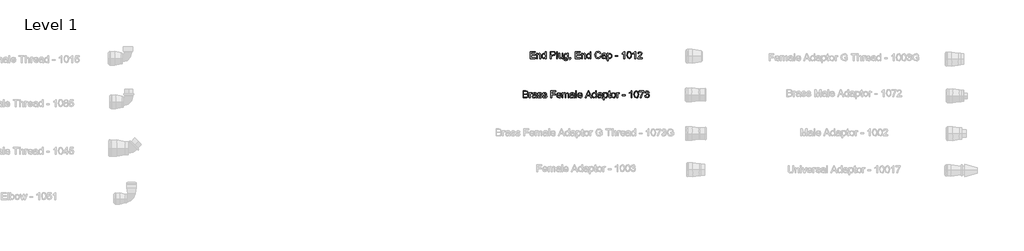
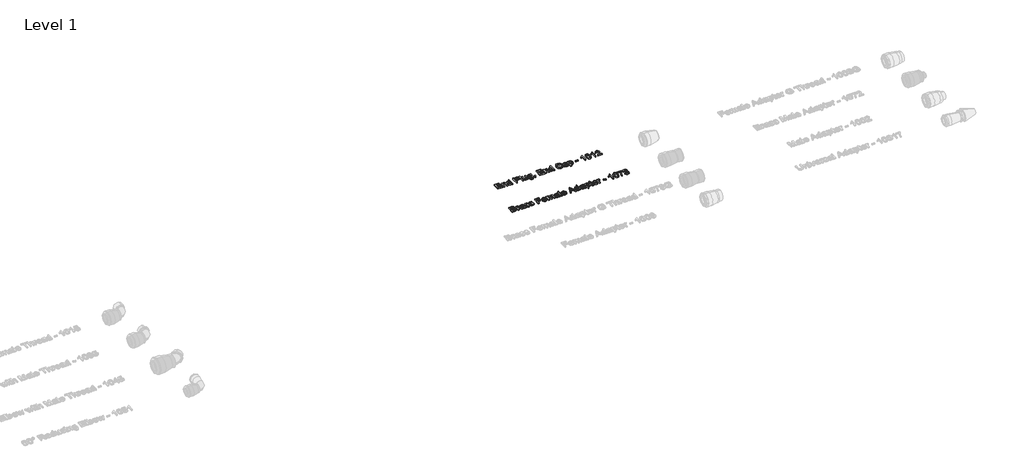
# One storey, part 8 of 13: 2 proxies.
"""IFC4 building model written with IfcOpenShell, lengths in millimetres."""

from ifc_helpers import new_model, si_unit, origin, origin_with_axes, place, context, project, spatial, polyline, outline, extrude, element, save

model = new_model("IFC4")

# Units and contexts
model_context = context("Model", 3, world=origin())
ifc_project = project(units=[si_unit("LENGTHUNIT", "METRE", prefix="MILLI")], contexts=[model_context])

# Site, building, storey
site = spatial("IfcSite", under=ifc_project)
building = spatial("IfcBuilding", under=site)
storey = spatial("IfcBuildingStorey", under=building, Name="Level 1", Elevation=0.0)

# Proxies
placement = place(None, origin())
element("IfcBuildingElementProxy", 1, Name="30 mm Arial", ObjectType="30 mm Arial", at=placement, inside=storey, context=model_context, shape_type="SweptSolid", body=[
    extrude(outline(polyline([(15636.2672516, 4924.8924653), (15636.2672516, 4954.4309268), (15657.4980209, 4954.4309268), (15657.4980209, 4950.7386191), (15639.9595593, 4950.7386191), (15639.9595593, 4941.9693883), (15656.574944, 4941.9693883), (15656.574944, 4938.2770806), (15639.9595593, 4938.2770806), (15639.9595593, 4928.584773), (15657.9595593, 4928.584773), (15657.9595593, 4924.8924653), (15636.2672516, 4924.8924653)])), origin_with_axes(), (0.0, 0.0, 1.0), 5.0),
    extrude(outline(polyline([(15663.0364824, 4924.8924653), (15663.0364824, 4946.584773), (15666.7287901, 4946.584773), (15666.7287901, 4943.5559268), (15673.4066747, 4947.0463114), (15676.8934536, 4946.3431864), (15679.2732613, 4944.4970326), (15680.3802324, 4941.7818883), (15680.574944, 4938.2121768), (15680.574944, 4924.8924653), (15676.8826363, 4924.8924653), (15676.8826363, 4937.7145806), (15676.4571555, 4940.9814076), (15674.9535497, 4942.708571), (15672.418694, 4943.3540037), (15668.4126843, 4941.9044845), (15666.7287901, 4936.4020806), (15666.7287901, 4924.8924653), (15663.0364824, 4924.8924653)])), origin_with_axes(), (0.0, 0.0, 1.0), 5.0),
    extrude(outline(polyline([(15699.0364824, 4924.8924653), (15699.0364824, 4928.3756383), (15693.2167709, 4924.4309268), (15688.6446555, 4925.8588114), (15685.4138863, 4929.8431864), (15684.2672516, 4935.7169845), (15685.323742, 4941.5943883), (15688.4896074, 4945.6400614), (15693.2023478, 4947.0463114), (15696.606194, 4946.0403018), (15699.0364824, 4943.4261191), (15699.0364824, 4954.4309268), (15702.7287901, 4954.4309268), (15702.7287901, 4924.8924653), (15699.0364824, 4924.8924653)]), holes=[polyline([(15687.9595593, 4935.7314076), (15689.6254247, 4930.0162633), (15693.5557132, 4928.1232345), (15697.4391266, 4929.9297249), (15699.0364824, 4935.4501576), (15697.4102805, 4941.442946), (15693.4042709, 4943.3540037), (15689.5172516, 4941.5186672), (15687.9595593, 4935.7314076)])]), origin_with_axes(), (0.0, 0.0, 1.0), 5.0),
    extrude(outline(polyline([(15720.2672516, 4924.8924653), (15720.2672516, 4954.4309268), (15731.214367, 4954.4309268), (15735.6278286, 4954.1496768), (15739.215569, 4952.7686672), (15741.5412901, 4949.912898), (15742.4210978, 4945.8852537), (15740.0448959, 4939.5030422), (15731.4667709, 4936.8924653), (15723.9595593, 4936.8924653), (15723.9595593, 4924.8924653), (15720.2672516, 4924.8924653)]), holes=[polyline([(15723.9595593, 4940.584773), (15731.683117, 4940.584773), (15737.120617, 4941.9405422), (15738.7287901, 4945.755446), (15737.7804728, 4948.8131383), (15735.2888863, 4950.4862153), (15731.5965786, 4950.7386191), (15723.9595593, 4950.7386191), (15723.9595593, 4940.584773)])]), origin_with_axes(), (0.0, 0.0, 1.0), 5.0),
    extrude(outline(polyline([(15747.0364824, 4924.8924653), (15747.0364824, 4954.4309268), (15750.7287901, 4954.4309268), (15750.7287901, 4924.8924653), (15747.0364824, 4924.8924653)])), origin_with_axes(), (0.0, 0.0, 1.0), 5.0),
    extrude(outline(polyline([(15770.1134055, 4924.8924653), (15770.1134055, 4928.6208306), (15763.449944, 4924.4309268), (15759.9775882, 4925.1665037), (15757.5833574, 4927.0126576), (15756.4835978, 4929.7314076), (15756.2672516, 4933.1640999), (15756.2672516, 4946.584773), (15759.9595593, 4946.584773), (15759.9595593, 4934.9020806), (15760.183117, 4931.1376576), (15761.6434536, 4928.927321), (15764.3946555, 4928.1232345), (15767.4775882, 4928.9453499), (15769.5148478, 4931.1845326), (15770.1134055, 4935.2987153), (15770.1134055, 4946.584773), (15773.8057132, 4946.584773), (15773.8057132, 4924.8924653), (15770.1134055, 4924.8924653)])), origin_with_axes(), (0.0, 0.0, 1.0), 5.0),
    extrude(outline(polyline([(15777.9595593, 4923.0463114), (15781.651867, 4922.584773), (15782.8489824, 4920.6376576), (15786.433117, 4919.8155422), (15790.2119632, 4920.7458306), (15792.0148478, 4923.3564076), (15792.2672516, 4927.661696), (15786.4980209, 4924.8924653), (15779.8525882, 4928.116023), (15777.4980209, 4935.8467922), (15778.5545113, 4941.569148), (15781.6122036, 4945.6184268), (15786.3177324, 4947.0463114), (15792.2672516, 4943.8155422), (15792.2672516, 4946.584773), (15795.9595593, 4946.584773), (15795.9595593, 4927.8564076), (15794.949944, 4920.6845326), (15791.7516266, 4917.349196), (15786.3610016, 4916.1232345), (15780.2203766, 4917.850398), (15777.9595593, 4923.0463114)]), holes=[polyline([(15781.1903286, 4936.099196), (15782.7660497, 4930.3840518), (15786.7215786, 4928.584773), (15790.6698959, 4930.3732345), (15792.2672516, 4935.991023), (15790.6230209, 4941.4970326), (15786.6638863, 4943.3540037), (15782.7876843, 4941.5258787), (15781.1903286, 4936.099196)])]), origin_with_axes(), (0.0, 0.0, 1.0), 5.0),
    extrude(outline(polyline([(15802.4210978, 4924.8924653), (15802.4210978, 4928.584773), (15806.1134055, 4928.584773), (15806.1134055, 4924.8924653), (15805.449944, 4921.1172249), (15803.3441747, 4918.8924653), (15802.4210978, 4920.2770806), (15803.776867, 4921.8708306), (15804.2600401, 4924.8924653), (15802.4210978, 4924.8924653)])), origin_with_axes(), (0.0, 0.0, 1.0), 5.0),
    extrude(outline(polyline([(15825.0364824, 4924.8924653), (15825.0364824, 4954.4309268), (15846.2672516, 4954.4309268), (15846.2672516, 4950.7386191), (15828.7287901, 4950.7386191), (15828.7287901, 4941.9693883), (15845.3441747, 4941.9693883), (15845.3441747, 4938.2770806), (15828.7287901, 4938.2770806), (15828.7287901, 4928.584773), (15846.7287901, 4928.584773), (15846.7287901, 4924.8924653), (15825.0364824, 4924.8924653)])), origin_with_axes(), (0.0, 0.0, 1.0), 5.0),
    extrude(outline(polyline([(15851.8057132, 4924.8924653), (15851.8057132, 4946.584773), (15855.4980209, 4946.584773), (15855.4980209, 4943.5559268), (15862.1759055, 4947.0463114), (15865.6626843, 4946.3431864), (15868.042492, 4944.4970326), (15869.1494632, 4941.7818883), (15869.3441747, 4938.2121768), (15869.3441747, 4924.8924653), (15865.651867, 4924.8924653), (15865.651867, 4937.7145806), (15865.2263863, 4940.9814076), (15863.7227805, 4942.708571), (15861.1879247, 4943.3540037), (15857.1819151, 4941.9044845), (15855.4980209, 4936.4020806), (15855.4980209, 4924.8924653), (15851.8057132, 4924.8924653)])), origin_with_axes(), (0.0, 0.0, 1.0), 5.0),
    extrude(outline(polyline([(15887.8057132, 4924.8924653), (15887.8057132, 4928.3756383), (15881.9860016, 4924.4309268), (15877.4138863, 4925.8588114), (15874.183117, 4929.8431864), (15873.0364824, 4935.7169845), (15874.0929728, 4941.5943883), (15877.2588382, 4945.6400614), (15881.9715786, 4947.0463114), (15885.3754247, 4946.0403018), (15887.8057132, 4943.4261191), (15887.8057132, 4954.4309268), (15891.4980209, 4954.4309268), (15891.4980209, 4924.8924653), (15887.8057132, 4924.8924653)]), holes=[polyline([(15876.7287901, 4935.7314076), (15878.3946555, 4930.0162633), (15882.324944, 4928.1232345), (15886.2083574, 4929.9297249), (15887.8057132, 4935.4501576), (15886.1795113, 4941.442946), (15882.1735016, 4943.3540037), (15878.2864824, 4941.5186672), (15876.7287901, 4935.7314076)])]), origin_with_axes(), (0.0, 0.0, 1.0), 5.0),
    extrude(outline(polyline([(15929.8057132, 4935.3924653), (15933.4980209, 4934.4405422), (15929.120617, 4926.9946287), (15921.3898478, 4924.4309268), (15913.7059536, 4926.3708306), (15909.198742, 4931.9886191), (15907.651867, 4939.8852537), (15909.4006651, 4947.911696), (15914.3730209, 4953.114821), (15921.4691747, 4954.8924653), (15928.8646074, 4952.5919845), (15933.0364824, 4946.116023), (15929.3441747, 4945.2362153), (15926.3153286, 4949.7758787), (15921.324944, 4951.2001576), (15915.5485016, 4949.6208306), (15912.2852805, 4945.380446), (15911.3441747, 4939.8924653), (15912.4583574, 4933.5318883), (15915.9271074, 4929.4681864), (15921.0220593, 4928.1232345), (15926.6722997, 4929.9549653), (15929.8057132, 4935.3924653)])), origin_with_axes(), (0.0, 0.0, 1.0), 5.0),
    extrude(outline(polyline([(15951.9595593, 4927.661696), (15948.3790305, 4925.1592922), (15944.4235016, 4924.4309268), (15939.0617228, 4926.1833306), (15937.1903286, 4930.661696), (15937.8970593, 4933.5823691), (15939.7540305, 4935.7025614), (15942.339367, 4936.9140999), (15945.5340786, 4937.4693883), (15951.9379247, 4938.7386191), (15950.9427324, 4942.286696), (15946.8610016, 4943.3540037), (15943.1254247, 4942.6436672), (15941.3441747, 4940.1232345), (15937.651867, 4940.584773), (15939.2492228, 4944.1905422), (15942.465569, 4946.303523), (15947.3369632, 4947.0463114), (15951.8117228, 4946.3900614), (15954.339367, 4944.7422249), (15955.4715786, 4942.2362153), (15955.651867, 4939.005446), (15955.651867, 4934.411696), (15955.839367, 4927.9970326), (15956.574944, 4924.8924653), (15952.8826363, 4924.8924653), (15951.9595593, 4927.661696)]), holes=[polyline([(15951.948742, 4934.5234749), (15946.0028286, 4933.9140999), (15942.8261459, 4933.3155422), (15941.387444, 4932.3419845), (15941.9823959, 4928.9237153), (15945.2095593, 4928.1232345), (15948.9451363, 4929.006648), (15951.3537901, 4931.1448691), (15951.948742, 4934.5234749)])]), origin_with_axes(), (0.0, 0.0, 1.0), 5.0),
    extrude(outline(polyline([(15960.7287901, 4916.584773), (15960.7287901, 4946.584773), (15964.4210978, 4946.584773), (15964.4210978, 4942.9645806), (15966.9739824, 4946.0258787), (15970.4210978, 4947.0463114), (15975.1013863, 4945.6184268), (15978.1590786, 4941.5943883), (15979.1903286, 4935.9044845), (15978.0256651, 4929.9225133), (15974.6434536, 4925.8479941), (15969.9739824, 4924.4309268), (15966.761242, 4925.3792441), (15964.4210978, 4927.7770806), (15964.4210978, 4916.584773), (15960.7287901, 4916.584773)]), holes=[polyline([(15964.4210978, 4935.5655422), (15966.0184536, 4929.9405422), (15969.8946555, 4928.1232345), (15973.8501843, 4930.005446), (15975.4980209, 4935.8395806), (15973.8898478, 4941.4790037), (15970.0460978, 4943.3540037), (15966.1266266, 4941.3600133), (15964.4210978, 4935.5655422)])]), origin_with_axes(), (0.0, 0.0, 1.0), 5.0),
    extrude(outline(polyline([(15993.0364824, 4933.661696), (15993.0364824, 4937.3540037), (16004.574944, 4937.3540037), (16004.574944, 4933.661696), (15993.0364824, 4933.661696)])), origin_with_axes(), (0.0, 0.0, 1.0), 5.0),
    extrude(outline(polyline([(16033.1903286, 4924.8924653), (16029.4980209, 4924.8924653), (16029.4980209, 4947.911696), (16026.0004247, 4945.4201095), (16022.1134055, 4943.5559268), (16022.1134055, 4947.0463114), (16027.5256651, 4950.5006383), (16030.8105209, 4954.4309268), (16033.1903286, 4954.4309268), (16033.1903286, 4924.8924653)])), origin_with_axes(), (0.0, 0.0, 1.0), 5.0),
    extrude(outline(polyline([(16041.9595593, 4939.4237153), (16043.0448959, 4947.9225133), (16046.2684536, 4952.8227537), (16051.651867, 4954.4309268), (16055.964367, 4953.4790037), (16058.9427324, 4950.7350133), (16060.6735016, 4946.364821), (16061.3441747, 4939.4237153), (16060.2696555, 4930.9609749), (16057.0569151, 4926.0499172), (16051.651867, 4924.4309268), (16044.901867, 4927.2434268), (16041.9595593, 4939.4237153)]), holes=[polyline([(16045.651867, 4939.4309268), (16047.3826363, 4930.2614556), (16051.651867, 4928.1232345), (16055.9210978, 4930.2686672), (16057.651867, 4939.4309268), (16055.9787901, 4948.4958306), (16051.6085978, 4950.7386191), (16047.4403286, 4948.7626576), (16045.651867, 4939.4309268)])]), origin_with_axes(), (0.0, 0.0, 1.0), 5.0),
    extrude(outline(polyline([(16078.4210978, 4924.8924653), (16074.7287901, 4924.8924653), (16074.7287901, 4947.911696), (16071.231194, 4945.4201095), (16067.3441747, 4943.5559268), (16067.3441747, 4947.0463114), (16072.7564343, 4950.5006383), (16076.0412901, 4954.4309268), (16078.4210978, 4954.4309268), (16078.4210978, 4924.8924653)])), origin_with_axes(), (0.0, 0.0, 1.0), 5.0),
    extrude(outline(polyline([(16106.1134055, 4928.584773), (16106.1134055, 4924.8924653), (16086.7287901, 4924.8924653), (16087.1254247, 4927.4381383), (16089.3682132, 4931.3576095), (16093.9908093, 4935.6376576), (16100.3658093, 4941.7890999), (16101.9595593, 4945.9717922), (16100.4559536, 4949.3576095), (16096.5292709, 4950.7386191), (16092.4367228, 4949.3900614), (16090.8826363, 4945.661696), (16087.1903286, 4946.1232345), (16090.0208574, 4952.303523), (16096.6085978, 4954.4309268), (16103.2179728, 4952.0655422), (16105.651867, 4946.1953499), (16104.995617, 4942.694148), (16102.8141266, 4939.0739556), (16097.5244632, 4934.0150614), (16093.276867, 4930.4633787), (16091.6110016, 4928.584773), (16106.1134055, 4928.584773)])), origin_with_axes(), (0.0, 0.0, 1.0), 5.0),
])
element("IfcBuildingElementProxy", 2, Name="30 mm Arial", ObjectType="30 mm Arial", at=placement, inside=storey, context=model_context, shape_type="SweptSolid", body=[
    extrude(outline(polyline([(15606.2672516, 4759.8924653), (15606.2672516, 4789.4309268), (15617.5388863, 4789.4309268), (15623.059319, 4788.5619364), (15626.3189343, 4785.8900614), (15627.4980209, 4782.1112153), (15626.5064343, 4778.6604941), (15623.5100401, 4776.0463114), (15627.1482613, 4773.2915037), (15628.4210978, 4768.6977537), (15627.5521074, 4764.7278018), (15625.3994632, 4761.9008787), (15622.1867228, 4760.4008787), (15617.4523478, 4759.8924653), (15606.2672516, 4759.8924653)]), holes=[polyline([(15609.9595593, 4763.584773), (15617.5316747, 4763.584773), (15620.2720593, 4763.7290037), (15622.590569, 4764.5330903), (15624.1266266, 4766.1737153), (15624.7287901, 4768.661696), (15624.0220593, 4771.5318883), (15621.7323959, 4773.2446287), (15617.1710978, 4773.7386191), (15609.9595593, 4773.7386191), (15609.9595593, 4763.584773)]), polyline([(15609.9595593, 4777.4309268), (15616.7023478, 4777.4309268), (15620.6398478, 4777.7482345), (15623.0088382, 4779.114821), (15623.8057132, 4781.5198691), (15623.0629247, 4783.928523), (15620.9355209, 4785.3528018), (15616.1903286, 4785.7386191), (15609.9595593, 4785.7386191), (15609.9595593, 4777.4309268)])]), origin_with_axes(), (0.0, 0.0, 1.0), 5.0),
    extrude(outline(polyline([(15633.0364824, 4759.8924653), (15633.0364824, 4781.584773), (15636.2672516, 4781.584773), (15636.2672516, 4778.3756383), (15638.5605209, 4781.3323691), (15640.8682132, 4782.0463114), (15644.574944, 4780.9068883), (15643.3417709, 4777.5967922), (15640.745617, 4778.3540037), (15638.6578766, 4777.6256383), (15637.3273478, 4775.6064076), (15636.7287901, 4771.2939076), (15636.7287901, 4759.8924653), (15633.0364824, 4759.8924653)])), origin_with_axes(), (0.0, 0.0, 1.0), 5.0),
    extrude(outline(polyline([(15660.7287901, 4762.661696), (15657.1482613, 4760.1592922), (15653.1927324, 4759.4309268), (15647.8309536, 4761.1833306), (15645.9595593, 4765.661696), (15646.6662901, 4768.5823691), (15648.5232613, 4770.7025614), (15651.1085978, 4771.9140999), (15654.3033093, 4772.4693883), (15660.7071555, 4773.7386191), (15659.7119632, 4777.286696), (15655.6302324, 4778.3540037), (15651.8946555, 4777.6436672), (15650.1134055, 4775.1232345), (15646.4210978, 4775.584773), (15648.0184536, 4779.1905422), (15651.2347997, 4781.303523), (15656.106194, 4782.0463114), (15660.5809536, 4781.3900614), (15663.1085978, 4779.7422249), (15664.2408093, 4777.2362153), (15664.4210978, 4774.005446), (15664.4210978, 4769.411696), (15664.6085978, 4762.9970326), (15665.3441747, 4759.8924653), (15661.651867, 4759.8924653), (15660.7287901, 4762.661696)]), holes=[polyline([(15660.7179728, 4769.5234749), (15654.7720593, 4768.9140999), (15651.5953766, 4768.3155422), (15650.1566747, 4767.3419845), (15650.7516266, 4763.9237153), (15653.9787901, 4763.1232345), (15657.714367, 4764.006648), (15660.1230209, 4766.1448691), (15660.7179728, 4769.5234749)])]), origin_with_axes(), (0.0, 0.0, 1.0), 5.0),
    extrude(outline(polyline([(15668.1134055, 4766.3540037), (15671.8057132, 4766.8155422), (15673.5148478, 4764.0751576), (15677.4307132, 4763.1232345), (15681.1951363, 4763.9958306), (15682.4210978, 4766.0439076), (15681.1879247, 4767.7025614), (15677.387444, 4768.755446), (15671.8273478, 4770.5619364), (15669.4006651, 4772.6713114), (15668.574944, 4775.6496768), (15669.2384055, 4778.4008787), (15671.0485016, 4780.5030422), (15673.3958574, 4781.5955903), (15676.5725401, 4782.0463114), (15681.0653286, 4781.3215518), (15683.9210978, 4779.3600133), (15685.1903286, 4776.0463114), (15681.4980209, 4775.584773), (15680.1097997, 4777.6220326), (15676.8610016, 4778.3540037), (15673.3273478, 4777.6544845), (15672.2672516, 4776.0246768), (15674.0845593, 4774.1352537), (15677.2648478, 4773.349196), (15682.684319, 4771.6112153), (15685.2011459, 4769.6424653), (15686.1134055, 4766.4333306), (15685.042492, 4762.8996768), (15681.9523478, 4760.3359749), (15677.3802324, 4759.4309268), (15670.9403286, 4761.1761191), (15668.1134055, 4766.3540037)])), origin_with_axes(), (0.0, 0.0, 1.0), 5.0),
    extrude(outline(polyline([(15688.8826363, 4766.3540037), (15692.574944, 4766.8155422), (15694.2840786, 4764.0751576), (15698.199944, 4763.1232345), (15701.964367, 4763.9958306), (15703.1903286, 4766.0439076), (15701.9571555, 4767.7025614), (15698.1566747, 4768.755446), (15692.5965786, 4770.5619364), (15690.1698959, 4772.6713114), (15689.3441747, 4775.6496768), (15690.0076363, 4778.4008787), (15691.8177324, 4780.5030422), (15694.1650882, 4781.5955903), (15697.3417709, 4782.0463114), (15701.8345593, 4781.3215518), (15704.6903286, 4779.3600133), (15705.9595593, 4776.0463114), (15702.2672516, 4775.584773), (15700.8790305, 4777.6220326), (15697.6302324, 4778.3540037), (15694.0965786, 4777.6544845), (15693.0364824, 4776.0246768), (15694.8537901, 4774.1352537), (15698.0340786, 4773.349196), (15703.4535497, 4771.6112153), (15705.9703766, 4769.6424653), (15706.8826363, 4766.4333306), (15705.8117228, 4762.8996768), (15702.7215786, 4760.3359749), (15698.1494632, 4759.4309268), (15691.7095593, 4761.1761191), (15688.8826363, 4766.3540037)])), origin_with_axes(), (0.0, 0.0, 1.0), 5.0),
    extrude(outline(polyline([(15723.0364824, 4759.8924653), (15723.0364824, 4789.4309268), (15742.8826363, 4789.4309268), (15742.8826363, 4785.7386191), (15726.7287901, 4785.7386191), (15726.7287901, 4776.9693883), (15740.574944, 4776.9693883), (15740.574944, 4773.2770806), (15726.7287901, 4773.2770806), (15726.7287901, 4759.8924653), (15723.0364824, 4759.8924653)])), origin_with_axes(), (0.0, 0.0, 1.0), 5.0),
    extrude(outline(polyline([(15762.6855209, 4766.3540037), (15766.3057132, 4765.8924653), (15762.9198959, 4761.1256383), (15756.6134055, 4759.4309268), (15748.9475401, 4762.3552056), (15746.1134055, 4770.5583306), (15748.9763863, 4779.0318883), (15756.4042709, 4782.0463114), (15763.6194151, 4779.0390999), (15766.4210978, 4770.5799653), (15749.8057132, 4769.584773), (15751.9295113, 4764.7890999), (15756.6855209, 4763.1232345), (15760.3057132, 4763.8948691), (15762.6855209, 4766.3540037)]), holes=[polyline([(15749.8057132, 4773.2770806), (15762.7287901, 4773.2770806), (15761.2504247, 4776.6232345), (15756.3898478, 4778.3540037), (15751.8429728, 4776.9729941), (15749.8057132, 4773.2770806)])]), origin_with_axes(), (0.0, 0.0, 1.0), 5.0),
    extrude(outline(polyline([(15770.1134055, 4759.8924653), (15770.1134055, 4781.584773), (15773.8057132, 4781.584773), (15773.8057132, 4778.0150614), (15776.3441747, 4780.9393403), (15779.9571555, 4782.0463114), (15783.6566747, 4780.9177056), (15785.6903286, 4777.755446), (15792.2095593, 4782.0463114), (15797.0376843, 4780.2614556), (15798.7287901, 4774.7626576), (15798.7287901, 4759.8924653), (15795.0364824, 4759.8924653), (15795.0364824, 4773.1761191), (15794.6939343, 4776.2590518), (15793.4535497, 4777.7770806), (15791.3441747, 4778.3540037), (15787.7131651, 4776.8756383), (15786.2672516, 4772.1376576), (15786.2672516, 4759.8924653), (15782.574944, 4759.8924653), (15782.574944, 4773.5871768), (15781.7203766, 4777.1640999), (15778.918694, 4778.3540037), (15776.1855209, 4777.5607345), (15774.3682132, 4775.2386191), (15773.8057132, 4770.8323691), (15773.8057132, 4759.8924653), (15770.1134055, 4759.8924653)])), origin_with_axes(), (0.0, 0.0, 1.0), 5.0),
    extrude(outline(polyline([(15818.1134055, 4762.661696), (15814.5328766, 4760.1592922), (15810.5773478, 4759.4309268), (15805.215569, 4761.1833306), (15803.3441747, 4765.661696), (15804.0509055, 4768.5823691), (15805.9078766, 4770.7025614), (15808.4932132, 4771.9140999), (15811.6879247, 4772.4693883), (15818.0917709, 4773.7386191), (15817.0965786, 4777.286696), (15813.0148478, 4778.3540037), (15809.2792709, 4777.6436672), (15807.4980209, 4775.1232345), (15803.8057132, 4775.584773), (15805.403069, 4779.1905422), (15808.6194151, 4781.303523), (15813.4908093, 4782.0463114), (15817.965569, 4781.3900614), (15820.4932132, 4779.7422249), (15821.6254247, 4777.2362153), (15821.8057132, 4774.005446), (15821.8057132, 4769.411696), (15821.9932132, 4762.9970326), (15822.7287901, 4759.8924653), (15819.0364824, 4759.8924653), (15818.1134055, 4762.661696)]), holes=[polyline([(15818.1025882, 4769.5234749), (15812.1566747, 4768.9140999), (15808.979992, 4768.3155422), (15807.5412901, 4767.3419845), (15808.136242, 4763.9237153), (15811.3634055, 4763.1232345), (15815.0989824, 4764.006648), (15817.5076363, 4766.1448691), (15818.1025882, 4769.5234749)])]), origin_with_axes(), (0.0, 0.0, 1.0), 5.0),
    extrude(outline(polyline([(15826.8826363, 4759.8924653), (15826.8826363, 4789.4309268), (15830.574944, 4789.4309268), (15830.574944, 4759.8924653), (15826.8826363, 4759.8924653)])), origin_with_axes(), (0.0, 0.0, 1.0), 5.0),
    extrude(outline(polyline([(15851.3009055, 4766.3540037), (15854.9210978, 4765.8924653), (15851.5352805, 4761.1256383), (15845.2287901, 4759.4309268), (15837.5629247, 4762.3552056), (15834.7287901, 4770.5583306), (15837.5917709, 4779.0318883), (15845.0196555, 4782.0463114), (15852.2347997, 4779.0390999), (15855.0364824, 4770.5799653), (15838.4210978, 4769.584773), (15840.5448959, 4764.7890999), (15845.3009055, 4763.1232345), (15848.9210978, 4763.8948691), (15851.3009055, 4766.3540037)]), holes=[polyline([(15838.4210978, 4773.2770806), (15851.3441747, 4773.2770806), (15849.8658093, 4776.6232345), (15845.0052324, 4778.3540037), (15840.4583574, 4776.9729941), (15838.4210978, 4773.2770806)])]), origin_with_axes(), (0.0, 0.0, 1.0), 5.0),
    extrude(outline(polyline([(15867.2888863, 4759.8924653), (15879.0797516, 4789.4309268), (15882.2239824, 4789.4309268), (15894.0148478, 4759.8924653), (15890.1134055, 4759.8924653), (15886.731194, 4769.1232345), (15874.5653286, 4769.1232345), (15871.1903286, 4759.8924653), (15867.2888863, 4759.8924653)]), holes=[polyline([(15875.9210978, 4772.8155422), (15885.3826363, 4772.8155422), (15882.7215786, 4780.0775614), (15880.651867, 4785.7386191), (15878.8129247, 4780.7121768), (15875.9210978, 4772.8155422)])]), origin_with_axes(), (0.0, 0.0, 1.0), 5.0),
    extrude(outline(polyline([(15910.8826363, 4759.8924653), (15910.8826363, 4763.3756383), (15905.0629247, 4759.4309268), (15900.4908093, 4760.8588114), (15897.2600401, 4764.8431864), (15896.1134055, 4770.7169845), (15897.1698959, 4776.5943883), (15900.3357613, 4780.6400614), (15905.0485016, 4782.0463114), (15908.4523478, 4781.0403018), (15910.8826363, 4778.4261191), (15910.8826363, 4789.4309268), (15914.574944, 4789.4309268), (15914.574944, 4759.8924653), (15910.8826363, 4759.8924653)]), holes=[polyline([(15899.8057132, 4770.7314076), (15901.4715786, 4765.0162633), (15905.401867, 4763.1232345), (15909.2852805, 4764.9297249), (15910.8826363, 4770.4501576), (15909.2564343, 4776.442946), (15905.2504247, 4778.3540037), (15901.3634055, 4776.5186672), (15899.8057132, 4770.7314076)])]), origin_with_axes(), (0.0, 0.0, 1.0), 5.0),
    extrude(outline(polyline([(15933.9595593, 4762.661696), (15930.3790305, 4760.1592922), (15926.4235016, 4759.4309268), (15921.0617228, 4761.1833306), (15919.1903286, 4765.661696), (15919.8970593, 4768.5823691), (15921.7540305, 4770.7025614), (15924.339367, 4771.9140999), (15927.5340786, 4772.4693883), (15933.9379247, 4773.7386191), (15932.9427324, 4777.286696), (15928.8610016, 4778.3540037), (15925.1254247, 4777.6436672), (15923.3441747, 4775.1232345), (15919.651867, 4775.584773), (15921.2492228, 4779.1905422), (15924.465569, 4781.303523), (15929.3369632, 4782.0463114), (15933.8117228, 4781.3900614), (15936.339367, 4779.7422249), (15937.4715786, 4777.2362153), (15937.651867, 4774.005446), (15937.651867, 4769.411696), (15937.839367, 4762.9970326), (15938.574944, 4759.8924653), (15934.8826363, 4759.8924653), (15933.9595593, 4762.661696)]), holes=[polyline([(15933.948742, 4769.5234749), (15928.0028286, 4768.9140999), (15924.8261459, 4768.3155422), (15923.387444, 4767.3419845), (15923.9823959, 4763.9237153), (15927.2095593, 4763.1232345), (15930.9451363, 4764.006648), (15933.3537901, 4766.1448691), (15933.948742, 4769.5234749)])]), origin_with_axes(), (0.0, 0.0, 1.0), 5.0),
    extrude(outline(polyline([(15942.7287901, 4751.584773), (15942.7287901, 4781.584773), (15946.4210978, 4781.584773), (15946.4210978, 4777.9645806), (15948.9739824, 4781.0258787), (15952.4210978, 4782.0463114), (15957.1013863, 4780.6184268), (15960.1590786, 4776.5943883), (15961.1903286, 4770.9044845), (15960.0256651, 4764.9225133), (15956.6434536, 4760.8479941), (15951.9739824, 4759.4309268), (15948.761242, 4760.3792441), (15946.4210978, 4762.7770806), (15946.4210978, 4751.584773), (15942.7287901, 4751.584773)]), holes=[polyline([(15946.4210978, 4770.5655422), (15948.0184536, 4764.9405422), (15951.8946555, 4763.1232345), (15955.8501843, 4765.005446), (15957.4980209, 4770.8395806), (15955.8898478, 4776.4790037), (15952.0460978, 4778.3540037), (15948.1266266, 4776.3600133), (15946.4210978, 4770.5655422)])]), origin_with_axes(), (0.0, 0.0, 1.0), 5.0),
    extrude(outline(polyline([(15973.1903286, 4762.9717922), (15973.651867, 4759.7842922), (15970.8898478, 4759.4309268), (15967.7960978, 4760.0439076), (15966.2528286, 4761.6520806), (15965.8057132, 4765.8419845), (15965.8057132, 4777.8924653), (15963.0364824, 4777.8924653), (15963.0364824, 4781.584773), (15965.8057132, 4781.584773), (15965.8057132, 4786.8564076), (15969.4980209, 4789.0270806), (15969.4980209, 4781.584773), (15973.1903286, 4781.584773), (15973.1903286, 4777.8924653), (15969.4980209, 4777.8924653), (15969.4980209, 4765.9501576), (15969.6927324, 4764.0463114), (15973.1903286, 4762.9717922)])), origin_with_axes(), (0.0, 0.0, 1.0), 5.0),
    extrude(outline(polyline([(15975.9595593, 4770.7386191), (15979.1542709, 4779.6448691), (15985.6590786, 4782.0463114), (15992.636242, 4779.1220326), (15995.3441747, 4771.0415037), (15994.1470593, 4764.4717922), (15990.6602805, 4760.7542441), (15985.6590786, 4759.4309268), (15978.6386459, 4762.3443883), (15975.9595593, 4770.7386191)]), holes=[polyline([(15979.651867, 4770.7458306), (15981.3610016, 4765.0234749), (15985.6590786, 4763.1232345), (15989.9427324, 4765.0342922), (15991.651867, 4770.8612153), (15989.9319151, 4776.4537633), (15985.6590786, 4778.3540037), (15981.3610016, 4776.4609749), (15979.651867, 4770.7458306)])]), origin_with_axes(), (0.0, 0.0, 1.0), 5.0),
    extrude(outline(polyline([(15999.4980209, 4759.8924653), (15999.4980209, 4781.584773), (16002.7287901, 4781.584773), (16002.7287901, 4778.3756383), (16005.0220593, 4781.3323691), (16007.3297516, 4782.0463114), (16011.0364824, 4780.9068883), (16009.8033093, 4777.5967922), (16007.2071555, 4778.3540037), (16005.1194151, 4777.6256383), (16003.7888863, 4775.6064076), (16003.1903286, 4771.2939076), (16003.1903286, 4759.8924653), (15999.4980209, 4759.8924653)])), origin_with_axes(), (0.0, 0.0, 1.0), 5.0),
    extrude(outline(polyline([(16023.0364824, 4768.661696), (16023.0364824, 4772.3540037), (16034.574944, 4772.3540037), (16034.574944, 4768.661696), (16023.0364824, 4768.661696)])), origin_with_axes(), (0.0, 0.0, 1.0), 5.0),
    extrude(outline(polyline([(16063.1903286, 4759.8924653), (16059.4980209, 4759.8924653), (16059.4980209, 4782.911696), (16056.0004247, 4780.4201095), (16052.1134055, 4778.5559268), (16052.1134055, 4782.0463114), (16057.5256651, 4785.5006383), (16060.8105209, 4789.4309268), (16063.1903286, 4789.4309268), (16063.1903286, 4759.8924653)])), origin_with_axes(), (0.0, 0.0, 1.0), 5.0),
    extrude(outline(polyline([(16071.9595593, 4774.4237153), (16073.0448959, 4782.9225133), (16076.2684536, 4787.8227537), (16081.651867, 4789.4309268), (16085.964367, 4788.4790037), (16088.9427324, 4785.7350133), (16090.6735016, 4781.364821), (16091.3441747, 4774.4237153), (16090.2696555, 4765.9609749), (16087.0569151, 4761.0499172), (16081.651867, 4759.4309268), (16074.901867, 4762.2434268), (16071.9595593, 4774.4237153)]), holes=[polyline([(16075.651867, 4774.4309268), (16077.3826363, 4765.2614556), (16081.651867, 4763.1232345), (16085.9210978, 4765.2686672), (16087.651867, 4774.4309268), (16085.9787901, 4783.4958306), (16081.6085978, 4785.7386191), (16077.4403286, 4783.7626576), (16075.651867, 4774.4309268)])]), origin_with_axes(), (0.0, 0.0, 1.0), 5.0),
    extrude(outline(polyline([(16094.574944, 4785.2770806), (16094.574944, 4788.9693883), (16113.9595593, 4788.9693883), (16113.9595593, 4785.9838114), (16108.4607613, 4778.0403018), (16104.2528286, 4767.9189076), (16102.8826363, 4759.8924653), (16099.1903286, 4759.8924653), (16100.6578766, 4768.2217922), (16104.6855209, 4777.6364556), (16110.2672516, 4785.2770806), (16094.574944, 4785.2770806)])), origin_with_axes(), (0.0, 0.0, 1.0), 5.0),
    extrude(outline(polyline([(16117.1903286, 4767.7386191), (16120.8826363, 4768.2001576), (16122.9198959, 4764.3131383), (16126.731194, 4763.1232345), (16131.2167709, 4764.7602537), (16132.8826363, 4768.8131383), (16131.231194, 4772.631648), (16127.0340786, 4774.1424653), (16124.4451363, 4773.7386191), (16124.856194, 4777.4309268), (16129.637444, 4778.4477537), (16131.4980209, 4781.7073691), (16130.1494632, 4784.5955903), (16126.6735016, 4785.7386191), (16123.1542709, 4784.584773), (16121.3441747, 4781.1232345), (16117.651867, 4781.584773), (16120.6735016, 4787.3756383), (16126.543694, 4789.4309268), (16130.996819, 4788.4177056), (16134.1122036, 4785.6484749), (16135.1903286, 4781.9237153), (16134.1662901, 4778.5198691), (16131.137444, 4776.0751576), (16135.1614824, 4773.5511191), (16136.574944, 4768.7482345), (16133.7480209, 4762.1424653), (16126.6013863, 4759.4309268), (16120.1254247, 4761.7458306), (16117.1903286, 4767.7386191)])), origin_with_axes(), (0.0, 0.0, 1.0), 5.0),
])

save(model, "model.ifc")
